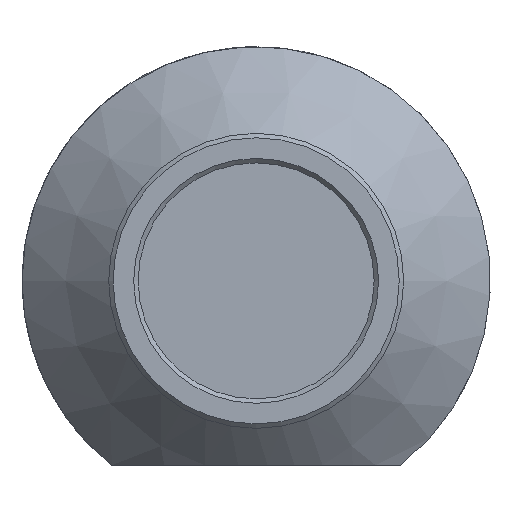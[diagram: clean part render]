
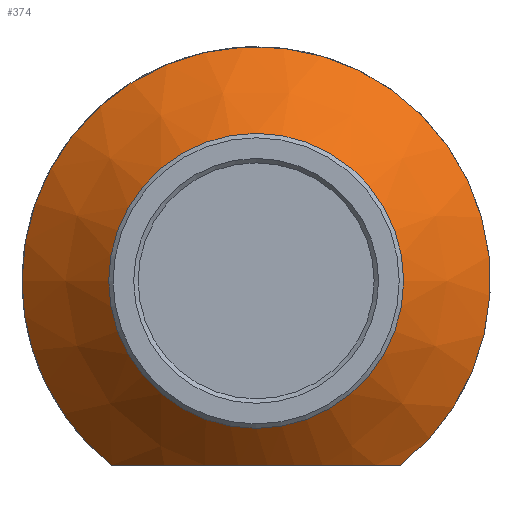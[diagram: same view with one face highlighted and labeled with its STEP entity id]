
A CAD part, front view. The second image highlights one B-rep face of the part: STEP entity #374.
In plain terms, the highlighted conical face has half-angle 45 degrees and reference radius 12.938 mm.
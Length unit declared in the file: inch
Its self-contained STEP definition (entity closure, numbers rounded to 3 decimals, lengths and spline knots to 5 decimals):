
#18=(
BOUNDED_CURVE()
B_SPLINE_CURVE(2,(#617,#618,#619),.UNSPECIFIED.,.F.,.F.)
B_SPLINE_CURVE_WITH_KNOTS((3,3),(0.,2.07033),.UNSPECIFIED.)
CURVE()
GEOMETRIC_REPRESENTATION_ITEM()
RATIONAL_B_SPLINE_CURVE((1.,1.27,1.))
REPRESENTATION_ITEM('')
);
#39=CONICAL_SURFACE('',#440,0.50935,0.785);
#59=FACE_OUTER_BOUND('',#87,.T.);
#87=EDGE_LOOP('',(#341,#342,#343,#344,#345,#346));
#114=LINE('',#685,#140);
#140=VECTOR('',#555,0.50935);
#152=CIRCLE('',#416,0.3937);
#158=CIRCLE('',#432,0.625);
#159=CIRCLE('',#433,0.625);
#173=VERTEX_POINT('',#593);
#181=VERTEX_POINT('',#614);
#182=VERTEX_POINT('',#616);
#192=VERTEX_POINT('',#649);
#212=EDGE_CURVE('',#173,#173,#152,.T.);
#222=EDGE_CURVE('',#182,#181,#18,.T.);
#238=EDGE_CURVE('',#192,#182,#158,.T.);
#239=EDGE_CURVE('',#181,#192,#159,.T.);
#245=EDGE_CURVE('',#173,#192,#114,.T.);
#341=ORIENTED_EDGE('',*,*,#212,.F.);
#342=ORIENTED_EDGE('',*,*,#245,.T.);
#343=ORIENTED_EDGE('',*,*,#238,.T.);
#344=ORIENTED_EDGE('',*,*,#222,.T.);
#345=ORIENTED_EDGE('',*,*,#239,.T.);
#346=ORIENTED_EDGE('',*,*,#245,.F.);
#374=ADVANCED_FACE('',(#59),#39,.T.);
#416=AXIS2_PLACEMENT_3D('',#595,#486,#487);
#432=AXIS2_PLACEMENT_3D('',#650,#535,#536);
#433=AXIS2_PLACEMENT_3D('',#651,#537,#538);
#440=AXIS2_PLACEMENT_3D('',#684,#553,#554);
#486=DIRECTION('center_axis',(0.,-1.,0.));
#487=DIRECTION('ref_axis',(1.,0.,0.));
#535=DIRECTION('center_axis',(0.,-1.,0.));
#536=DIRECTION('ref_axis',(1.,0.,0.));
#537=DIRECTION('center_axis',(0.,-1.,0.));
#538=DIRECTION('ref_axis',(1.,0.,0.));
#553=DIRECTION('center_axis',(0.,1.,0.));
#554=DIRECTION('ref_axis',(1.,0.,0.));
#555=DIRECTION('',(-0.707,0.707,0.));
#593=CARTESIAN_POINT('',(-0.3937,-1.19833,0.));
#595=CARTESIAN_POINT('Origin',(0.,-1.19833,0.));
#614=CARTESIAN_POINT('',(0.38528,-0.96703,-0.49213));
#616=CARTESIAN_POINT('',(-0.38528,-0.96703,-0.49213));
#617=CARTESIAN_POINT('Ctrl Pts',(-0.38528,-0.96703,
-0.49213));
#618=CARTESIAN_POINT('Ctrl Pts',(0.,-1.20453,-0.49213));
#619=CARTESIAN_POINT('Ctrl Pts',(0.38528,-0.96703,-0.49213));
#649=CARTESIAN_POINT('',(-0.625,-0.96703,0.));
#650=CARTESIAN_POINT('Origin',(0.,-0.96703,0.));
#651=CARTESIAN_POINT('Origin',(0.,-0.96703,0.));
#684=CARTESIAN_POINT('Origin',(0.,-1.08268,0.));
#685=CARTESIAN_POINT('',(-0.50935,-1.08268,0.));
